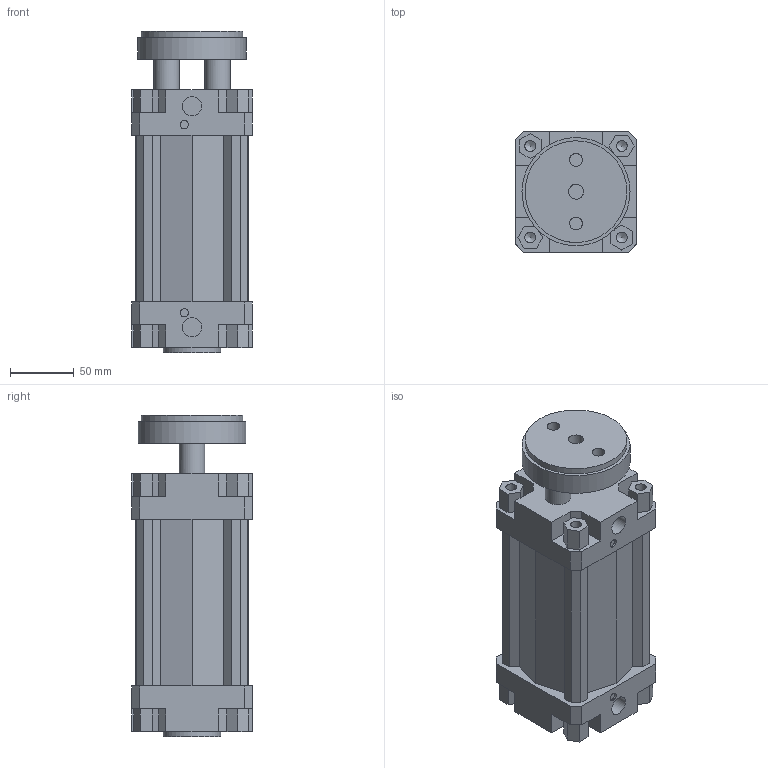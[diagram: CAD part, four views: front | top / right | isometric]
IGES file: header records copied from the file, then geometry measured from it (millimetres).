
Global section: file name: 132#_080_0075_01; native system: Autodesk Inventor 2014; preprocessor: unknown; author: A. Manieri; date: 20161006.162323; units: millimetre
Bounding box: 95 x 95 x 253 mm (x, y, z)
Volume: 1276971.7 mm3; surface area: 216006.8 mm2
Topology: 2 solids, 2 shells, 180 faces, 491 edges, 335 vertices
Faces by surface type: bspline 180
